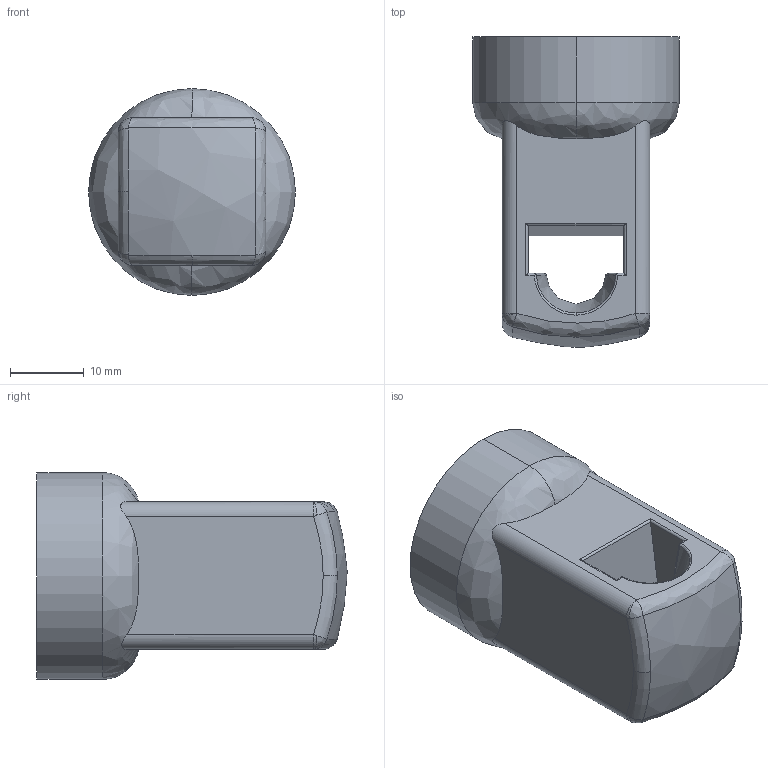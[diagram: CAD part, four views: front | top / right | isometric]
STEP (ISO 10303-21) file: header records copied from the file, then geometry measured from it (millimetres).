
FILE_DESCRIPTION (( 'STEP AP214' ), '1' );
FILE_NAME ('1C.906.009 PROWADNICA FI 8.STEP', '2010-03-02T18:16:14', ( '£ukaszC' ), ( '' ), 'SwSTEP 2.0', 'SolidWorks 2008', '' );
FILE_SCHEMA (( 'AUTOMOTIVE_DESIGN' ));
Length unit declared in the file: millimetre
Products named in the file (1): 1C.906.009 PROWADNICA FI 8
Bounding box: 28 x 42.01 x 28 mm (x, y, z)
Volume: 12404.2 mm3; surface area: 5826.7 mm2
Topology: 1 solids, 1 shells, 61 faces, 149 edges, 91 vertices
Faces by surface type: bspline 25, cylinder 22, plane 14
Entity records: 2931 total; most frequent: CARTESIAN_POINT 1630, ORIENTED_EDGE 294, DIRECTION 223, EDGE_CURVE 147, VERTEX_POINT 91, AXIS2_PLACEMENT_3D 90, EDGE_LOOP 66, FACE_OUTER_BOUND 61
